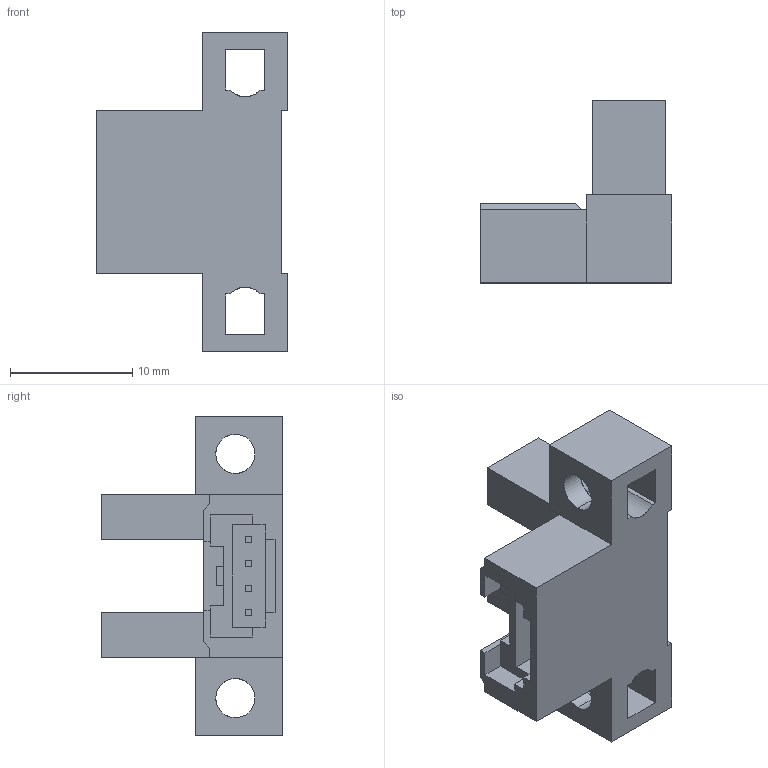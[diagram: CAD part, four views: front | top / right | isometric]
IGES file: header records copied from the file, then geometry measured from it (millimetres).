
Start section: SolidWorks IGES file using analytic representation for surfaces
Global section: file name: C:\catalog\pm-l65.IGS; native system: SolidWorks 2010; preprocessor: SolidWorks 2010; author: C0278; date: 150807.164458; units: millimetre
Bounding box: 15.7 x 14.9 x 26.2 mm (x, y, z)
Surface area: 1822.8 mm2 (no closed solid volume)
Topology: 0 solids, 0 shells, 134 faces, 984 edges, 984 vertices
Faces by surface type: bspline 123, revolution 11
